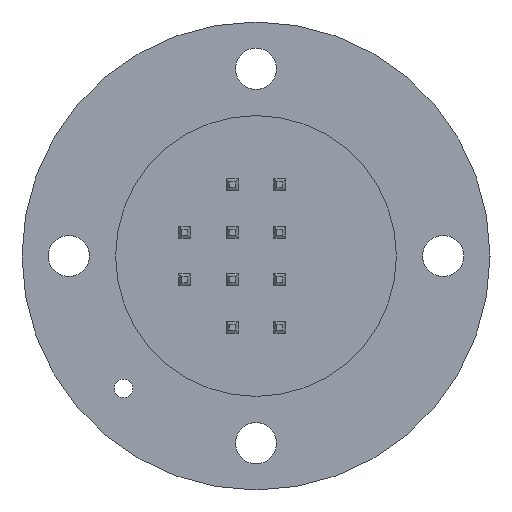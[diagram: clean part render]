
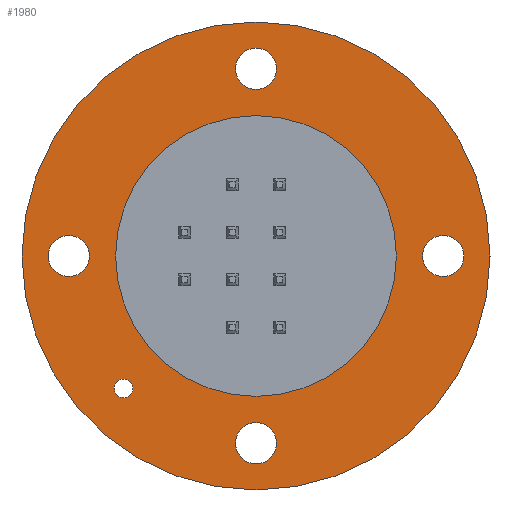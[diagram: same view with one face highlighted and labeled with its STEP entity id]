
A CAD part, left-side view. The second image highlights one B-rep face of the part: STEP entity #1980.
In plain terms, the highlighted planar face has unit normal (-1, 0, 0).
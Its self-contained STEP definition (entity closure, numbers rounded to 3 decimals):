
#51=FACE_BOUND('',#775,.T.);
#52=FACE_BOUND('',#776,.T.);
#53=FACE_BOUND('',#777,.T.);
#54=FACE_BOUND('',#778,.T.);
#55=FACE_BOUND('',#779,.T.);
#56=FACE_BOUND('',#780,.T.);
#611=FACE_OUTER_BOUND('',#774,.T.);
#774=EDGE_LOOP('',(#1664));
#775=EDGE_LOOP('',(#1665));
#776=EDGE_LOOP('',(#1666));
#777=EDGE_LOOP('',(#1667));
#778=EDGE_LOOP('',(#1668));
#779=EDGE_LOOP('',(#1669));
#780=EDGE_LOOP('',(#1670));
#818=CIRCLE('',#2124,0.5);
#820=CIRCLE('',#2127,1.1);
#822=CIRCLE('',#2130,1.1);
#824=CIRCLE('',#2133,1.1);
#826=CIRCLE('',#2136,1.1);
#831=CIRCLE('',#2145,12.5);
#832=CIRCLE('',#2147,7.5);
#978=VERTEX_POINT('',#3169);
#980=VERTEX_POINT('',#3174);
#982=VERTEX_POINT('',#3179);
#984=VERTEX_POINT('',#3184);
#986=VERTEX_POINT('',#3189);
#991=VERTEX_POINT('',#3203);
#992=VERTEX_POINT('',#3206);
#1218=EDGE_CURVE('',#978,#978,#818,.T.);
#1220=EDGE_CURVE('',#980,#980,#820,.T.);
#1222=EDGE_CURVE('',#982,#982,#822,.T.);
#1224=EDGE_CURVE('',#984,#984,#824,.T.);
#1226=EDGE_CURVE('',#986,#986,#826,.T.);
#1231=EDGE_CURVE('',#991,#991,#831,.T.);
#1232=EDGE_CURVE('',#992,#992,#832,.T.);
#1664=ORIENTED_EDGE('',*,*,#1231,.T.);
#1665=ORIENTED_EDGE('',*,*,#1218,.T.);
#1666=ORIENTED_EDGE('',*,*,#1220,.T.);
#1667=ORIENTED_EDGE('',*,*,#1222,.T.);
#1668=ORIENTED_EDGE('',*,*,#1224,.T.);
#1669=ORIENTED_EDGE('',*,*,#1226,.T.);
#1670=ORIENTED_EDGE('',*,*,#1232,.F.);
#1818=PLANE('',#2146);
#1980=ADVANCED_FACE('',(#611,#51,#52,#53,#54,#55,#56),#1818,.T.);
#2124=AXIS2_PLACEMENT_3D('',#3170,#2631,#2632);
#2127=AXIS2_PLACEMENT_3D('',#3175,#2637,#2638);
#2130=AXIS2_PLACEMENT_3D('',#3180,#2643,#2644);
#2133=AXIS2_PLACEMENT_3D('',#3185,#2649,#2650);
#2136=AXIS2_PLACEMENT_3D('',#3190,#2655,#2656);
#2145=AXIS2_PLACEMENT_3D('',#3204,#2673,#2674);
#2146=AXIS2_PLACEMENT_3D('',#3205,#2675,#2676);
#2147=AXIS2_PLACEMENT_3D('',#3207,#2677,#2678);
#2631=DIRECTION('center_axis',(1.,0.,0.));
#2632=DIRECTION('ref_axis',(0.,0.,-1.));
#2637=DIRECTION('center_axis',(1.,0.,0.));
#2638=DIRECTION('ref_axis',(0.,1.,0.));
#2643=DIRECTION('center_axis',(1.,0.,0.));
#2644=DIRECTION('ref_axis',(0.,0.,1.));
#2649=DIRECTION('center_axis',(1.,0.,0.));
#2650=DIRECTION('ref_axis',(0.,-1.,0.));
#2655=DIRECTION('center_axis',(1.,0.,0.));
#2656=DIRECTION('ref_axis',(0.,0.,-1.));
#2673=DIRECTION('center_axis',(-1.,0.,0.));
#2674=DIRECTION('ref_axis',(0.,0.,1.));
#2675=DIRECTION('center_axis',(-1.,0.,0.));
#2676=DIRECTION('ref_axis',(0.,0.,1.));
#2677=DIRECTION('center_axis',(-1.,0.,0.));
#2678=DIRECTION('ref_axis',(0.,0.,1.));
#3169=CARTESIAN_POINT('',(-2.,7.071,-6.571));
#3170=CARTESIAN_POINT('Origin',(-2.,7.071,-7.071));
#3174=CARTESIAN_POINT('',(-2.,-1.1,10.));
#3175=CARTESIAN_POINT('Origin',(-2.,0.,10.));
#3179=CARTESIAN_POINT('',(-2.,-10.,-1.1));
#3180=CARTESIAN_POINT('Origin',(-2.,-10.,0.));
#3184=CARTESIAN_POINT('',(-2.,1.1,-10.));
#3185=CARTESIAN_POINT('Origin',(-2.,0.,-10.));
#3189=CARTESIAN_POINT('',(-2.,10.,1.1));
#3190=CARTESIAN_POINT('Origin',(-2.,10.,0.));
#3203=CARTESIAN_POINT('',(-2.,0.,12.5));
#3204=CARTESIAN_POINT('Origin',(-2.,0.,0.));
#3205=CARTESIAN_POINT('Origin',(-2.,0.,10.));
#3206=CARTESIAN_POINT('',(-2.,0.,7.5));
#3207=CARTESIAN_POINT('Origin',(-2.,0.,0.));
